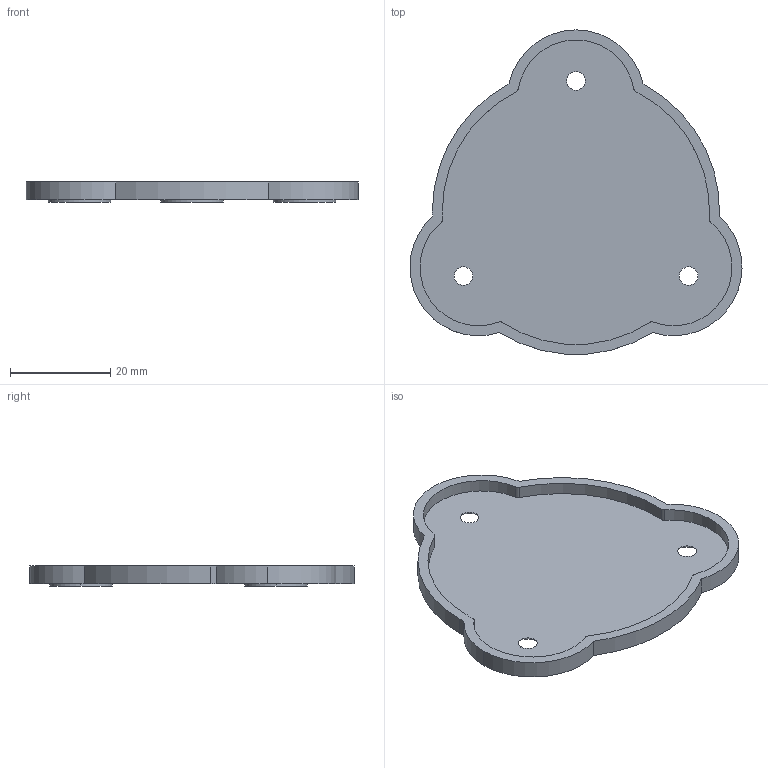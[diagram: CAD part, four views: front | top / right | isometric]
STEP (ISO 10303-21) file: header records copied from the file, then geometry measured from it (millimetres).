
FILE_DESCRIPTION (( 'STEP AP214' ), '1' );
FILE_NAME ('Íèæíÿÿ êðûøêà êíîïêè.STEP', '2021-11-10T11:29:14', ( 'j03075@gmail.com' ), ( '' ), 'SwSTEP 2.0', 'SolidWorks 2021', '' );
FILE_SCHEMA (( 'AUTOMOTIVE_DESIGN' ));
Length unit declared in the file: millimetre
Products named in the file (1): Íèæíÿÿ êðûøêà êíîïêè
Bounding box: 66.37 x 64.81 x 4 mm (x, y, z)
Volume: 4070.7 mm3; surface area: 7396.6 mm2
Topology: 1 solids, 1 shells, 50 faces, 123 edges, 82 vertices
Faces by surface type: cylinder 35, plane 9, cone 6
Entity records: 1575 total; most frequent: DIRECTION 307, CARTESIAN_POINT 256, ORIENTED_EDGE 246, AXIS2_PLACEMENT_3D 133, EDGE_CURVE 123, VERTEX_POINT 82, CIRCLE 82, EDGE_LOOP 63
